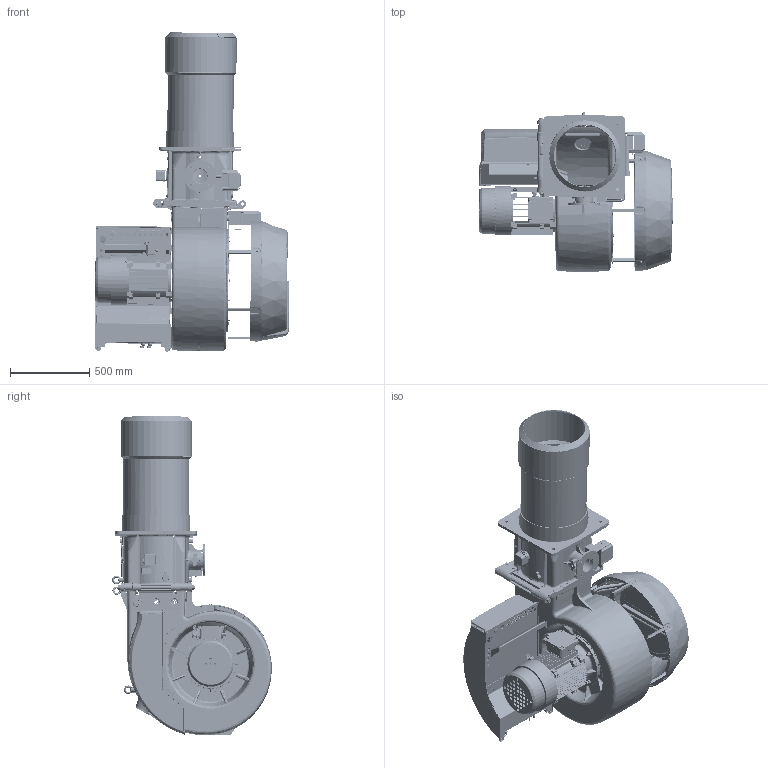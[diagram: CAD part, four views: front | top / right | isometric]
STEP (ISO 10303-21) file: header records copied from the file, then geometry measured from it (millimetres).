
FILE_DESCRIPTION (( 'STEP AP203' ), '1' );
FILE_NAME ('67440010 - TBG 1100ME.STEP', '2017-09-26T09:40:15', ( '' ), ( '' ), 'SwSTEP 2.0', 'SolidWorks 2016', '' );
FILE_SCHEMA (( 'CONFIG_CONTROL_DESIGN' ));
Products named in the file (1): 67440010 - TBG 1100ME
Bounding box: 1226.37 x 1010.51 x 2019.24 mm (x, y, z)
Surface area: 11857246.7 mm2 (no closed solid volume)
Topology: 0 solids, 492 shells, 2941 faces, 15530 edges, 12571 vertices
Faces by surface type: plane 1120, cylinder 827, bspline 743, cone 136, torus 106, sphere 9
Full cylindrical faces by diameter (mm): 3.3 x2, 4.2 x2, 5 x4, 5.5 x1, 6 x13, 7.5 x1, 8 x9, 8.5 x4, 9.5 x2, 10 x14, 10.2 x8, 10.5 x1, 11 x1, 12 x7, 13 x5, 14 x16, 14.5 x2, 15 x6, 15.2 x1, 16 x7, 17 x7, 17.5 x3, 18 x4, 19 x2, 20 x6, 20.5 x4, 21 x11, 22 x10, 26 x1, 28 x2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
Entity records: 301261 total; most frequent: CARTESIAN_POINT 198208, ORIENTED_EDGE 19416, DIRECTION 16120, EDGE_CURVE 15104, VERTEX_POINT 12465, LINE 6110, VECTOR 6110, B_SPLINE_CURVE_WITH_KNOTS 5785
